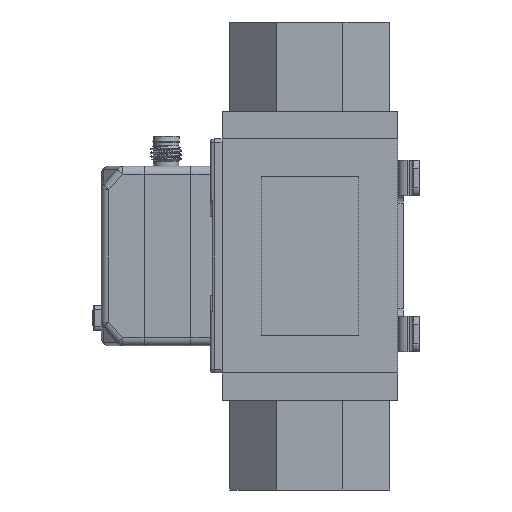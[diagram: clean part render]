
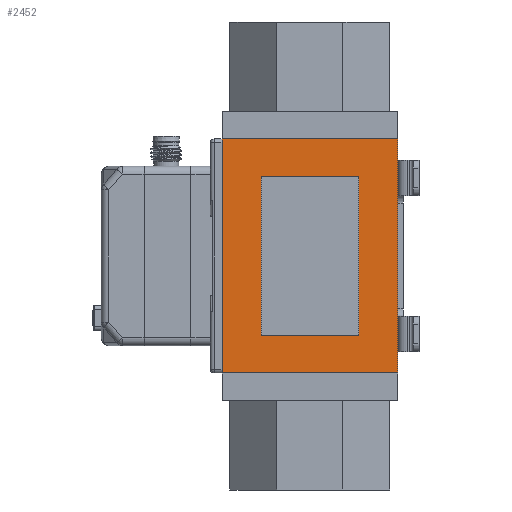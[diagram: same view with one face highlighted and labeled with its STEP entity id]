
A CAD part, front view. The second image highlights one B-rep face of the part: STEP entity #2452.
In plain terms, the highlighted planar face has unit normal (0, -1, 0).
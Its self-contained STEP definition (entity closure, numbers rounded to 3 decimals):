
#1563=FACE_BOUND('',#4991,.T.);
#1564=FACE_BOUND('',#4992,.T.);
#1971=CIRCLE('',#19310,0.5);
#1972=CIRCLE('',#19311,0.5);
#1973=CIRCLE('',#19312,0.5);
#1974=CIRCLE('',#19313,0.5);
#2452=ADVANCED_FACE('',(#1563,#1564),#3392,.T.);
#3392=PLANE('',#19314);
#4991=EDGE_LOOP('',(#6808,#6809,#6810,#6811));
#4992=EDGE_LOOP('',(#6812,#6813,#6814,#6815,#6816,#6817,#6818,#6819));
#6808=ORIENTED_EDGE('',*,*,#13387,.T.);
#6809=ORIENTED_EDGE('',*,*,#13306,.T.);
#6810=ORIENTED_EDGE('',*,*,#13388,.F.);
#6811=ORIENTED_EDGE('',*,*,#13109,.F.);
#6812=ORIENTED_EDGE('',*,*,#13381,.F.);
#6813=ORIENTED_EDGE('',*,*,#13389,.F.);
#6814=ORIENTED_EDGE('',*,*,#13390,.F.);
#6815=ORIENTED_EDGE('',*,*,#13391,.F.);
#6816=ORIENTED_EDGE('',*,*,#13377,.F.);
#6817=ORIENTED_EDGE('',*,*,#13392,.F.);
#6818=ORIENTED_EDGE('',*,*,#13393,.F.);
#6819=ORIENTED_EDGE('',*,*,#13394,.F.);
#11330=VERTEX_POINT('',#25873);
#11331=VERTEX_POINT('',#25875);
#11514=VERTEX_POINT('',#26267);
#11515=VERTEX_POINT('',#26268);
#11564=VERTEX_POINT('',#26699);
#11565=VERTEX_POINT('',#26700);
#11566=VERTEX_POINT('',#26705);
#11567=VERTEX_POINT('',#26707);
#11572=VERTEX_POINT('',#26722);
#11573=VERTEX_POINT('',#26724);
#11574=VERTEX_POINT('',#26727);
#11575=VERTEX_POINT('',#26729);
#13109=EDGE_CURVE('',#11330,#11331,#15558,.T.);
#13306=EDGE_CURVE('',#11514,#11515,#15755,.T.);
#13377=EDGE_CURVE('',#11564,#11565,#15794,.T.);
#13381=EDGE_CURVE('',#11566,#11567,#15798,.T.);
#13387=EDGE_CURVE('',#11330,#11514,#15804,.T.);
#13388=EDGE_CURVE('',#11331,#11515,#15805,.T.);
#13389=EDGE_CURVE('',#11572,#11566,#1971,.T.);
#13390=EDGE_CURVE('',#11573,#11572,#15806,.T.);
#13391=EDGE_CURVE('',#11565,#11573,#1972,.T.);
#13392=EDGE_CURVE('',#11574,#11564,#1973,.T.);
#13393=EDGE_CURVE('',#11575,#11574,#15807,.T.);
#13394=EDGE_CURVE('',#11567,#11575,#1974,.T.);
#15558=LINE('',#25874,#17406);
#15755=LINE('',#26266,#17603);
#15794=LINE('',#26698,#17642);
#15798=LINE('',#26706,#17646);
#15804=LINE('',#26719,#17652);
#15805=LINE('',#26720,#17653);
#15806=LINE('',#26723,#17654);
#15807=LINE('',#26728,#17655);
#17406=VECTOR('',#21054,1.);
#17603=VECTOR('',#21275,1.);
#17642=VECTOR('',#21376,1.);
#17646=VECTOR('',#21382,1.);
#17652=VECTOR('',#21392,1.);
#17653=VECTOR('',#21393,1.);
#17654=VECTOR('',#21396,1.);
#17655=VECTOR('',#21401,1.);
#19310=AXIS2_PLACEMENT_3D('',#26721,#21394,#21395);
#19311=AXIS2_PLACEMENT_3D('',#26725,#21397,#21398);
#19312=AXIS2_PLACEMENT_3D('',#26726,#21399,#21400);
#19313=AXIS2_PLACEMENT_3D('',#26730,#21402,#21403);
#19314=AXIS2_PLACEMENT_3D('',#26731,#21404,#21405);
#21054=DIRECTION('',(0.,0.,1.));
#21275=DIRECTION('',(0.,0.,1.));
#21376=DIRECTION('',(0.,0.,-1.));
#21382=DIRECTION('',(0.,0.,1.));
#21392=DIRECTION('',(1.,0.,0.));
#21393=DIRECTION('',(1.,0.,0.));
#21394=DIRECTION('',(0.,-1.,0.));
#21395=DIRECTION('',(0.,0.,1.));
#21396=DIRECTION('',(1.,0.,0.));
#21397=DIRECTION('',(0.,-1.,0.));
#21398=DIRECTION('',(0.,0.,1.));
#21399=DIRECTION('',(0.,-1.,0.));
#21400=DIRECTION('',(0.,0.,1.));
#21401=DIRECTION('',(-1.,0.,0.));
#21402=DIRECTION('',(0.,-1.,0.));
#21403=DIRECTION('',(0.,0.,1.));
#21404=DIRECTION('',(0.,-1.,0.));
#21405=DIRECTION('',(1.,0.,0.));
#25873=CARTESIAN_POINT('',(-0.5,-0.5,-68.));
#25874=CARTESIAN_POINT('',(-0.5,-0.5,-78.));
#25875=CARTESIAN_POINT('',(-0.5,-0.5,-8.));
#26266=CARTESIAN_POINT('',(44.5,-0.5,-78.));
#26267=CARTESIAN_POINT('',(44.5,-0.5,-68.));
#26268=CARTESIAN_POINT('',(44.5,-0.5,-8.));
#26698=CARTESIAN_POINT('',(9.5,-0.5,-18.));
#26699=CARTESIAN_POINT('',(9.5,-0.5,-18.));
#26700=CARTESIAN_POINT('',(9.5,-0.5,-58.));
#26705=CARTESIAN_POINT('',(34.5,-0.5,-58.));
#26706=CARTESIAN_POINT('',(34.5,-0.5,-68.));
#26707=CARTESIAN_POINT('',(34.5,-0.5,-18.));
#26719=CARTESIAN_POINT('',(-0.5,-0.5,-68.));
#26720=CARTESIAN_POINT('',(-0.5,-0.5,-8.));
#26721=CARTESIAN_POINT('',(34.,-0.5,-58.));
#26722=CARTESIAN_POINT('',(34.,-0.5,-58.5));
#26723=CARTESIAN_POINT('',(10.,-0.5,-58.5));
#26724=CARTESIAN_POINT('',(10.,-0.5,-58.5));
#26725=CARTESIAN_POINT('',(10.,-0.5,-58.));
#26726=CARTESIAN_POINT('',(10.,-0.5,-18.));
#26727=CARTESIAN_POINT('',(10.,-0.5,-17.5));
#26728=CARTESIAN_POINT('',(34.,-0.5,-17.5));
#26729=CARTESIAN_POINT('',(34.,-0.5,-17.5));
#26730=CARTESIAN_POINT('',(34.,-0.5,-18.));
#26731=CARTESIAN_POINT('',(-0.5,-0.5,-78.));
